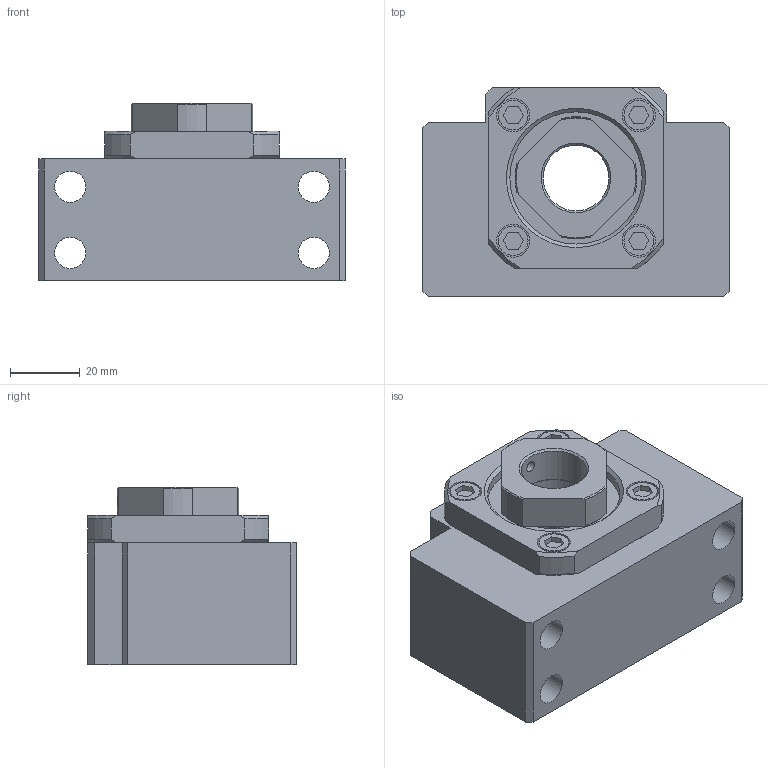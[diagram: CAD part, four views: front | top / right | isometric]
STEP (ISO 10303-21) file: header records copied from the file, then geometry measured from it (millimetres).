
FILE_DESCRIPTION(/* description */ ('STEP AP203'),/* implementation_level */ '2;1');
FILE_NAME(/* name */ 'BK20Yes',/* time_stamp */ '2025-06-09T15:25:14+02:00',/* author */ ('License CC BY-ND 4.0'),/* organization */ ('CADENAS'),/* preprocessor_version */ 'ST-DEVELOPER v19.3',/* originating_system */ 'PARTsolutions',/* authorisation */ ' ');
FILE_SCHEMA (('CONFIG_CONTROL_DESIGN'));
Length unit declared in the file: millimetre
Products named in the file (4): BK20Yes; BK 20; BK 20collar; RN 20
Assembly tree (4 placements, depth 2):
  BK20Yes
    BK 20
    BK 20collar  x2
    RN 20
Bounding box: 88 x 60 x 51 mm (x, y, z)
Volume: 165027.4 mm3; surface area: 45513.9 mm2
Topology: 4 solids, 4 shells, 153 faces, 355 edges, 236 vertices
Faces by surface type: plane 94, cylinder 38, cone 21
Full cylindrical faces by diameter (mm): 3.242 x1, 4 x1, 8.5 x4, 9 x4, 9.5 x4, 14 x4, 18.917 x1, 20 x3, 26 x1, 27.4 x4, 38 x2, 38.1 x1
Entity records: 4267 total; most frequent: CARTESIAN_POINT 836, DIRECTION 678, ORIENTED_EDGE 626, EDGE_CURVE 313, AXIS2_PLACEMENT_3D 253, VERTEX_POINT 229, EDGE_LOOP 222, FACE_BOUND 222
